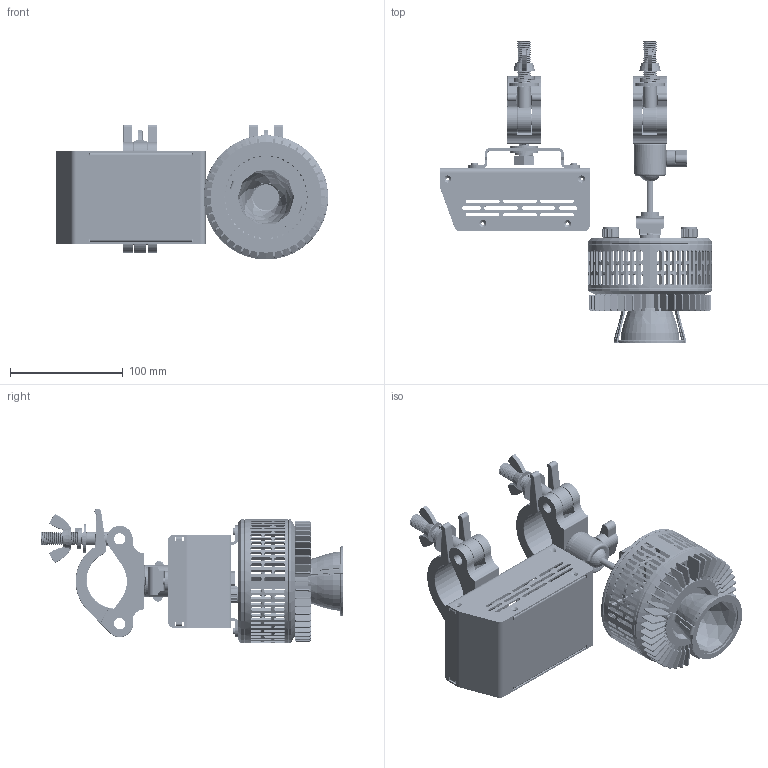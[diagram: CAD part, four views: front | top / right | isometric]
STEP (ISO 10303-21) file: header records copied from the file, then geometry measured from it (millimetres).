
FILE_DESCRIPTION (( 'STEP AP214' ), '1' );
FILE_NAME ('W360N-CLP-PS.STEP', '2024-01-31T01:04:48', ( '' ), ( '' ), 'SwSTEP 2.0', 'SolidWorks 2022', '' );
FILE_SCHEMA (( 'AUTOMOTIVE_DESIGN' ));
Length unit declared in the file: millimetre
Products named in the file (37): 5022693-XXX_A1_Bracket, 98.85x25x17.5, T=2.5mm___; 62280-2163006_ _SCREW, FLAT HEAD TORX W-THD LOCK, SUS-304, BLACK, M3.0 x L6.0mm___; 5022449-XXX_A1_Ball Joint Part C (For CLP), L=18.9mm___; 5022534-XXX_A1_150W Power Box Cover, 132.5x79x54.5(H)mm, TG&TJ&CLP&TEX-PS Type_PS; 5021926-XXX_A2_KNOB, 18T, OD=14.9, ID=6, L=10MM_C1; 62280-1343006_ _SCREW, PAN HEAD TROX W-THD LOCK, SUS-410, BLACK, M3xL6mm___; 5022430-XXX_A1_Ball Joint Part C (For TDE), L=18.9mm___; 5010176-XXX_A2_Assembly BOM, Kessil W360_35D-TSG; 5060069-XXX_A2_W series Reflector-35, OD=62, H=45mm___; 5022452-003_A3_Reflector Sink Holder, D108x14.35(H)mm (-004 is White)_-003(Black); 5022708-XXX_A2_Ball Joint Axis, L=65.8mm___; 5120522-XXX_A3_Assembly BOM, W360&W500 Light Mounting Type_For W360_TSG; 62280-1363010_ _SCREW, M3x10mmL, PAN HEAD TORX WITH THREAD LOCK___; 5021736-006_A2_Aluminum Hook, M10, Black_For W500-CLP-PS; 5020757-001_A1_VR Nut, Kessil A360 Aquarium Light___; 5021416_A1_Hex Nut, M10xP1.5, T8 SUS___; W360N-CLP-PS; 62280-5413010_ _SCREW, FLAT PAN HEAD, TORX W-THD LOCK, SUS-304, M3xL10mm___; 5020757-002_A2_VR Washer, Kessil A360 Aquarium Light___; 62280-231A025_ _SCREW, M10xP1.5 L25mm_Original; 62280-231A030_ _SCREW, M10xP1.5 L30mm_Original; 5120533-XXX_A3_Housing, OD=110, ID=105, T=47.5mm, For Reflector___; 5020897-2010216520_ _Helical Spring Washer Customized___; 5022445-XXX_A1_DC Plug for W Series, D=12mm_-002(Black); 5120526-XXX_A2_Assembly BOM, W360 Reflector Type_Reflector - 35D; 5022453-XXX_A1_35D Sink Holder B, 71.2x62.2x31.1(H)mm___; 5022375-XXX_A4_150W Power Box Frame, 132.5x82x56(H)mm___; 62280-1213010_ _SCREW, PAN HEAD PHILLIPS, SUS-304, M3xL10mm___; 5022405-XXX_A1_Wing Knob Screws, M6xL8.0mm_-001; 5022398-XXX_A1_Plug for W Series, 19x10x9.4mm_For W360; 5022431-XXX_A1_Ball Joint Part A, L=23.7mm___; 5120521-XXX_A2_Assembly BOM, W360 Light Engine_Finish; 5021925_A1_PLATE, R=37.5, W=50, T=2MM___; 62282-5014005_ _Standard Types of Metric Set Screws, M4xL5, Black___; 5120532-XXX_A1_Rear Panel, OD=110, T=8.3mm, W-Series_____; 5020893-2010525020_ _Flat Washer, M10, ID10.5 OD25.0, T2 SUS 304___; 5120511-XXX_A3_Assembly BOM, Power Box for W360_Assembly_CLP-PS
Assembly tree (51 placements, depth 4):
  W360N-CLP-PS
    5010176-XXX_A2_Assembly BOM, Kessil W360_35D-TSG
      5120521-XXX_A2_Assembly BOM, W360 Light Engine_Finish
        5120532-XXX_A1_Rear Panel, OD=110, T=8.3mm, W-Series_____
        5022445-XXX_A1_DC Plug for W Series, D=12mm_-002(Black)
        5022398-XXX_A1_Plug for W Series, 19x10x9.4mm_For W360
        62280-1363010_ _SCREW, M3x10mmL, PAN HEAD TORX WITH THREAD LOCK___  x2
        5020757-002_A2_VR Washer, Kessil A360 Aquarium Light___  x2
        5020757-001_A1_VR Nut, Kessil A360 Aquarium Light___  x2
        5021926-XXX_A2_KNOB, 18T, OD=14.9, ID=6, L=10MM_C1  x2
      5120526-XXX_A2_Assembly BOM, W360 Reflector Type_Reflector - 35D
        5120533-XXX_A3_Housing, OD=110, ID=105, T=47.5mm, For Reflector___
        5021925_A1_PLATE, R=37.5, W=50, T=2MM___
        62280-2163006_ _SCREW, FLAT HEAD TORX W-THD LOCK, SUS-304, BLACK, M3.0 x L6.0mm___  x2
        62280-1343006_ _SCREW, PAN HEAD TROX W-THD LOCK, SUS-410, BLACK, M3xL6mm___  x2
        5022452-003_A3_Reflector Sink Holder, D108x14.35(H)mm (-004 is White)_-003(Black)
        5022453-XXX_A1_35D Sink Holder B, 71.2x62.2x31.1(H)mm___
        5060069-XXX_A2_W series Reflector-35, OD=62, H=45mm___
        62280-5413010_ _SCREW, FLAT PAN HEAD, TORX W-THD LOCK, SUS-304, M3xL10mm___  x2
      5120522-XXX_A3_Assembly BOM, W360&W500 Light Mounting Type_For W360_TSG
        5022431-XXX_A1_Ball Joint Part A, L=23.7mm___
        5022430-XXX_A1_Ball Joint Part C (For TDE), L=18.9mm___
        5022708-XXX_A2_Ball Joint Axis, L=65.8mm___
        62282-5014005_ _Standard Types of Metric Set Screws, M4xL5, Black___
        5022405-XXX_A1_Wing Knob Screws, M6xL8.0mm_-001
        5022693-XXX_A1_Bracket, 98.85x25x17.5, T=2.5mm___
        5021736-006_A2_Aluminum Hook, M10, Black_For W500-CLP-PS
        62280-231A025_ _SCREW, M10xP1.5 L25mm_Original
        5022449-XXX_A1_Ball Joint Part C (For CLP), L=18.9mm___
        5020893-2010525020_ _Flat Washer, M10, ID10.5 OD25.0, T2 SUS 304___  x2
        5020897-2010216520_ _Helical Spring Washer Customized___
        5021416_A1_Hex Nut, M10xP1.5, T8 SUS___
    5120511-XXX_A3_Assembly BOM, Power Box for W360_Assembly_CLP-PS
      5022375-XXX_A4_150W Power Box Frame, 132.5x82x56(H)mm___
      5021736-006_A2_Aluminum Hook, M10, Black_For W500-CLP-PS
      62280-231A030_ _SCREW, M10xP1.5 L30mm_Original
      5020893-2010525020_ _Flat Washer, M10, ID10.5 OD25.0, T2 SUS 304___  x2
      5022693-XXX_A1_Bracket, 98.85x25x17.5, T=2.5mm___
      5020897-2010216520_ _Helical Spring Washer Customized___
      5021416_A1_Hex Nut, M10xP1.5, T8 SUS___
      62280-1213010_ _SCREW, PAN HEAD PHILLIPS, SUS-304, M3xL10mm___  x2
      5022534-XXX_A1_150W Power Box Cover, 132.5x79x54.5(H)mm, TG&TJ&CLP&TEX-PS Type_PS
Bounding box: 240.97 x 267.82 x 119.42 mm (x, y, z)
Volume: 414698 mm3; surface area: 340455.3 mm2
Topology: 89 solids, 89 shells, 5181 faces, 14113 edges, 9138 vertices
Faces by surface type: plane 2026, cylinder 1944, bspline 673, cone 274, torus 220, sphere 44
Entity records: 205734 total; most frequent: CARTESIAN_POINT 79268, ORIENTED_EDGE 22662, DIRECTION 17779, EDGE_CURVE 11331, VERTEX_POINT 7363, LINE 5953, VECTOR 5953, AXIS2_PLACEMENT_3D 5913
